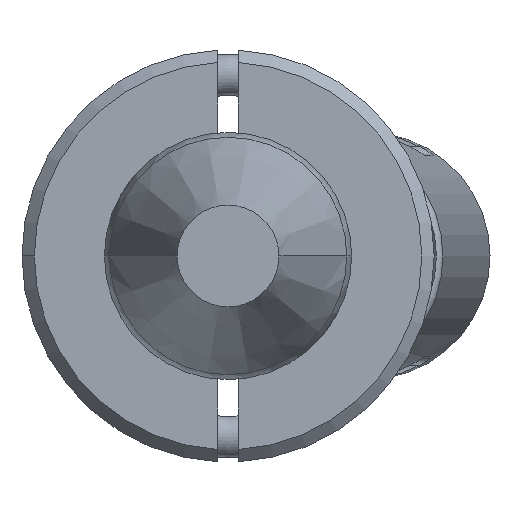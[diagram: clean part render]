
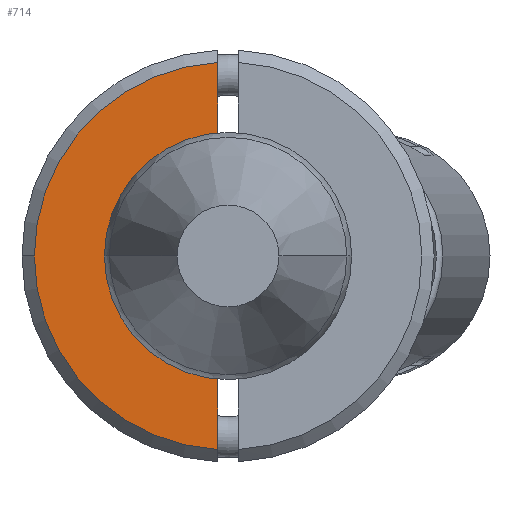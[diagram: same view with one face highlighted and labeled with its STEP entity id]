
A CAD part, front view. The second image highlights one B-rep face of the part: STEP entity #714.
In plain terms, the highlighted planar face has unit normal (0, -1, 0).
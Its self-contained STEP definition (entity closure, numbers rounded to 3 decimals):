
#71 = CARTESIAN_POINT ( 'NONE',  ( -5., -6., 0. ) ) ;
#289 = CARTESIAN_POINT ( 'NONE',  ( 0., -6., 0. ) ) ;
#346 = EDGE_CURVE ( 'NONE', #515, #2088, #1558, .T. ) ;
#460 = EDGE_CURVE ( 'NONE', #2156, #1830, #2261, .T. ) ;
#507 = CIRCLE ( 'NONE', #1004, 4.7 ) ;
#515 = VERTEX_POINT ( 'NONE', #3259 ) ;
#610 = CARTESIAN_POINT ( 'NONE',  ( 2.437, -6., 0.25 ) ) ;
#658 = PLANE ( 'NONE',  #3567 ) ;
#709 = DIRECTION ( 'NONE',  ( -1., 0., 0. ) ) ;
#714 = ADVANCED_FACE ( 'NONE', ( #3627 ), #658, .T. ) ;
#741 = CARTESIAN_POINT ( 'NONE',  ( 0., -6., 0. ) ) ;
#1004 = AXIS2_PLACEMENT_3D ( 'NONE', #289, #1475, #2393 ) ;
#1019 = CARTESIAN_POINT ( 'NONE',  ( -5., -6., 0.25 ) ) ;
#1030 = ORIENTED_EDGE ( 'NONE', *, *, #2796, .F. ) ;
#1067 = DIRECTION ( 'NONE',  ( 0., 0., -1. ) ) ;
#1149 = ORIENTED_EDGE ( 'NONE', *, *, #460, .F. ) ;
#1201 = EDGE_LOOP ( 'NONE', ( #1030, #1305, #3131, #1149, #3622 ) ) ;
#1249 = EDGE_CURVE ( 'NONE', #2156, #1966, #1359, .T. ) ;
#1276 = DIRECTION ( 'NONE',  ( 0., 0., -1. ) ) ;
#1305 = ORIENTED_EDGE ( 'NONE', *, *, #346, .T. ) ;
#1359 = CIRCLE ( 'NONE', #2382, 2.45 ) ;
#1396 = CARTESIAN_POINT ( 'NONE',  ( -2.437, -6., 0.25 ) ) ;
#1475 = DIRECTION ( 'NONE',  ( 0., -1., 0. ) ) ;
#1558 = CIRCLE ( 'NONE', #1616, 4.7 ) ;
#1616 = AXIS2_PLACEMENT_3D ( 'NONE', #3399, #2472, #1901 ) ;
#1667 = DIRECTION ( 'NONE',  ( 0., 1., 0. ) ) ;
#1761 = VECTOR ( 'NONE', #709, 1000. ) ;
#1830 = VERTEX_POINT ( 'NONE', #3465 ) ;
#1901 = DIRECTION ( 'NONE',  ( 0., 0., -1. ) ) ;
#1966 = VERTEX_POINT ( 'NONE', #610 ) ;
#1980 = DIRECTION ( 'NONE',  ( -1., 0., 0. ) ) ;
#2088 = VERTEX_POINT ( 'NONE', #2545 ) ;
#2126 = VECTOR ( 'NONE', #1980, 1000. ) ;
#2156 = VERTEX_POINT ( 'NONE', #1396 ) ;
#2160 = DIRECTION ( 'NONE',  ( 0., -1., 0. ) ) ;
#2261 = LINE ( 'NONE', #3771, #2126 ) ;
#2270 = EDGE_CURVE ( 'NONE', #2088, #1830, #507, .T. ) ;
#2382 = AXIS2_PLACEMENT_3D ( 'NONE', #741, #1667, #1067 ) ;
#2393 = DIRECTION ( 'NONE',  ( 0., 0., -1. ) ) ;
#2465 = LINE ( 'NONE', #1019, #1761 ) ;
#2472 = DIRECTION ( 'NONE',  ( 0., -1., 0. ) ) ;
#2545 = CARTESIAN_POINT ( 'NONE',  ( 0., -6., 4.7 ) ) ;
#2796 = EDGE_CURVE ( 'NONE', #515, #1966, #2465, .T. ) ;
#3131 = ORIENTED_EDGE ( 'NONE', *, *, #2270, .T. ) ;
#3259 = CARTESIAN_POINT ( 'NONE',  ( 4.693, -6., 0.25 ) ) ;
#3399 = CARTESIAN_POINT ( 'NONE',  ( 0., -6., 0. ) ) ;
#3465 = CARTESIAN_POINT ( 'NONE',  ( -4.693, -6., 0.25 ) ) ;
#3567 = AXIS2_PLACEMENT_3D ( 'NONE', #71, #2160, #1276 ) ;
#3622 = ORIENTED_EDGE ( 'NONE', *, *, #1249, .T. ) ;
#3627 = FACE_OUTER_BOUND ( 'NONE', #1201, .T. ) ;
#3771 = CARTESIAN_POINT ( 'NONE',  ( -5., -6., 0.25 ) ) ;
